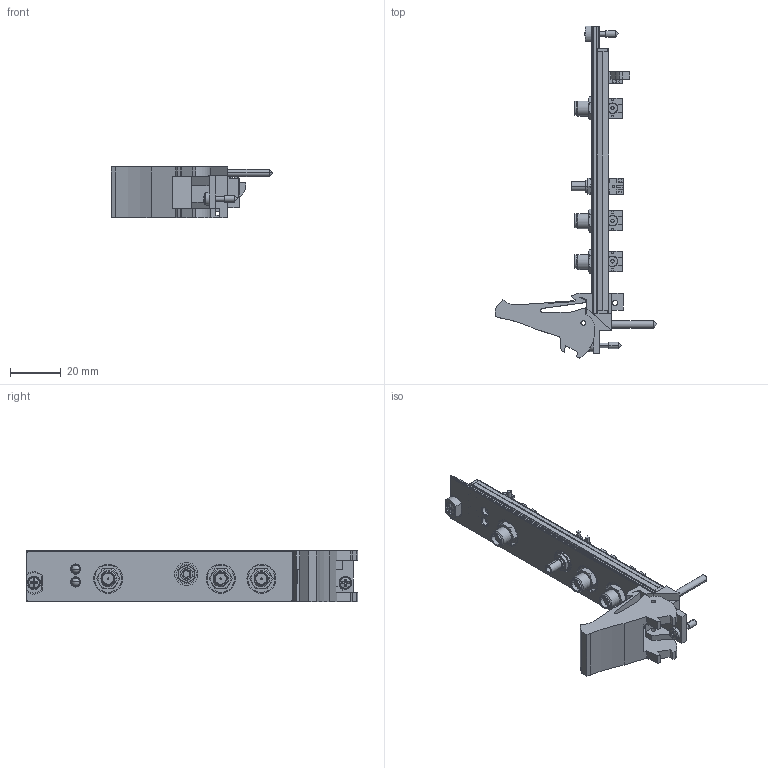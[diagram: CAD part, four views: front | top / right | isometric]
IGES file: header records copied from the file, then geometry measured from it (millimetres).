
Start section:  PTC IGES file: cu_pxie-5622.igs
Global section: file name: cu_pxie-5622.igs; native system: Pro/ENGINEER by Parametric Technology Corporation; preprocessor: 2006080; author: jjorden; organization: Unknown; date: 090922.122443; units: inch
Bounding box: 63.53 x 130.5 x 20.31 mm (x, y, z)
Surface area: 18926.5 mm2 (no closed solid volume)
Topology: 0 solids, 0 shells, 773 faces, 3972 edges, 3964 vertices
Faces by surface type: bspline 462, revolution 311
